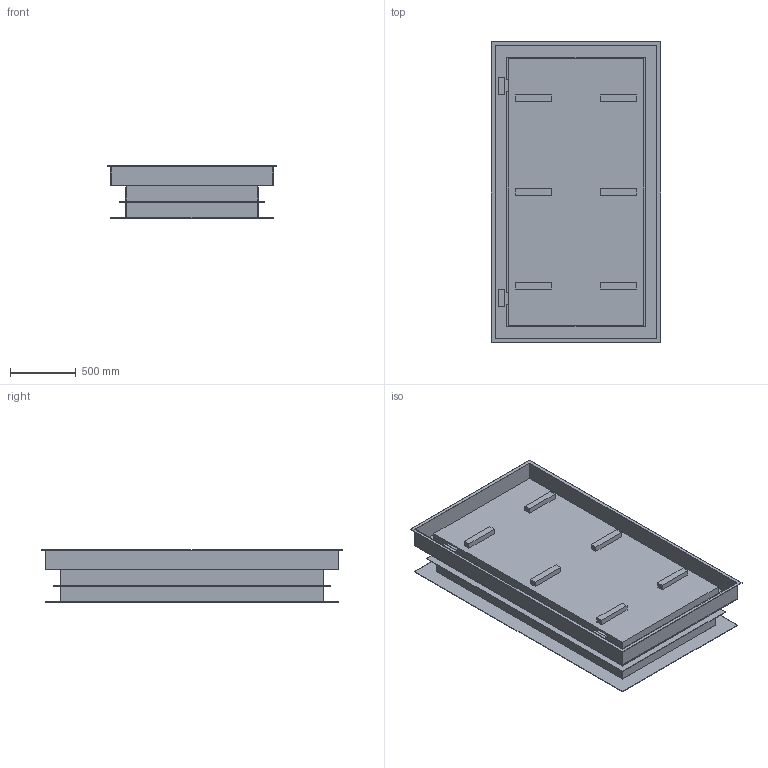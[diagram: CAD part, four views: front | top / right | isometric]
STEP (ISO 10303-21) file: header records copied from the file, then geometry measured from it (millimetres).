
FILE_DESCRIPTION((''),'2;1');
FILE_NAME('52274389','2024-08-14T09:41:50',('ka'),('HUBER SE'),'CREO PARAMETRIC BY PTC INC, 2022162','CREO PARAMETRIC BY PTC INC, 2022162','');
FILE_SCHEMA(('AUTOMOTIVE_DESIGN { 1 0 10303 214 1 1 1 1 }'));
Length unit declared in the file: millimetre
Products named in the file (1): 52274389
Bounding box: 1290 x 2290 x 400 mm (x, y, z)
Volume: 217998744 mm3; surface area: 14398128 mm2
Topology: 1 solids, 1 shells, 129 faces, 312 edges, 208 vertices
Faces by surface type: plane 129
Entity records: 5016 total; most frequent: CARTESIAN_POINT 651, ORIENTED_EDGE 624, DIRECTION 570, VECTOR 312, LINE 312, EDGE_CURVE 312, VERTEX_POINT 208, EDGE_LOOP 156
